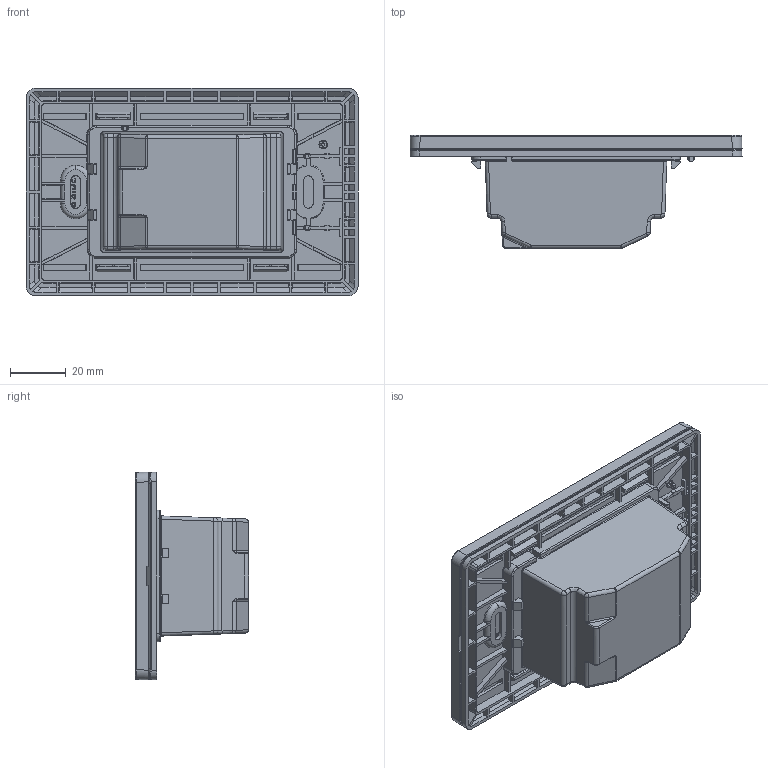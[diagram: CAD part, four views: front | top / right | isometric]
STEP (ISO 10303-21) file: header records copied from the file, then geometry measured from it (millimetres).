
FILE_DESCRIPTION (( 'STEP AP203' ), '1' );
FILE_NAME ('RMN_DIMMER_FOR BOX.STEP', '2021-10-06T15:13:21', ( '' ), ( '' ), 'SwSTEP 2.0', 'SolidWorks 2020', '' );
FILE_SCHEMA (( 'CONFIG_CONTROL_DESIGN' ));
Products named in the file (1): RMN_DIMMER_FOR BOX
Bounding box: 119 x 40.6 x 74.5 mm (x, y, z)
Volume: 122550.1 mm3; surface area: 46954.9 mm2
Topology: 2 solids, 2 shells, 1763 faces, 4826 edges, 3153 vertices
Faces by surface type: plane 1215, cylinder 235, bspline 214, cone 81, torus 16, sphere 2
Entity records: 63104 total; most frequent: CARTESIAN_POINT 21006, ORIENTED_EDGE 9640, DIRECTION 7312, EDGE_CURVE 4820, LINE 3512, VECTOR 3512, VERTEX_POINT 3153, EDGE_LOOP 1901
